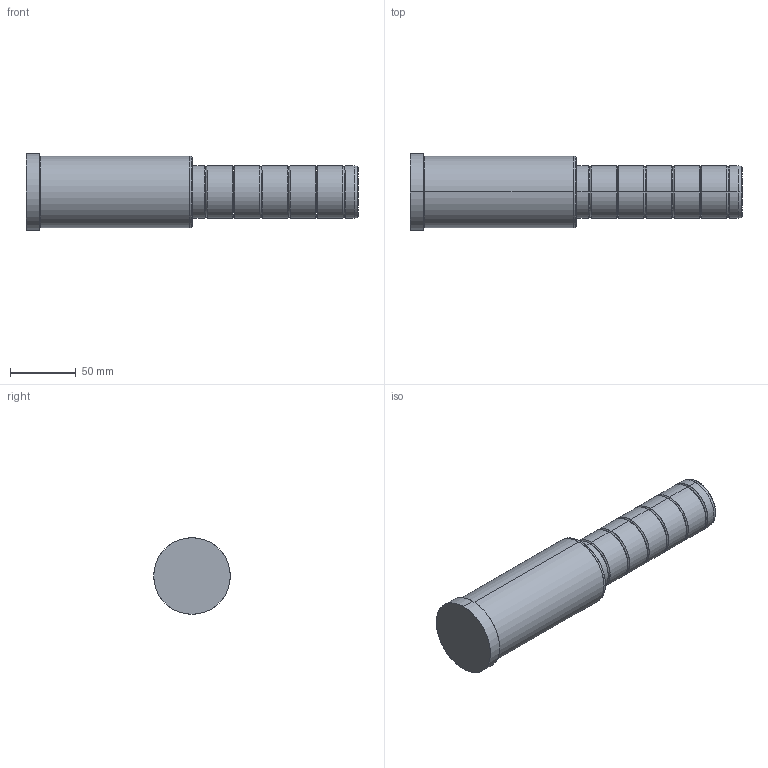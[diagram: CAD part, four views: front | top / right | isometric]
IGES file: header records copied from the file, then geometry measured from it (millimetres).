
Start section: SolidWorks IGES file using analytic representation for surfaces
Global section: file name: C:\Documents and Settings\kalite-mail\Desktop\IGS\D02\40\D02 - 40x126x126.IGS; native system: SolidWorks 2008; preprocessor: SolidWorks 2008; author: kalite-mail; date: 080617.102830; units: millimetre
Bounding box: 252 x 58 x 58 mm (x, y, z)
Surface area: 43216.8 mm2 (no closed solid volume)
Topology: 0 solids, 0 shells, 60 faces, 856 edges, 856 vertices
Faces by surface type: bspline 34, revolution 26
